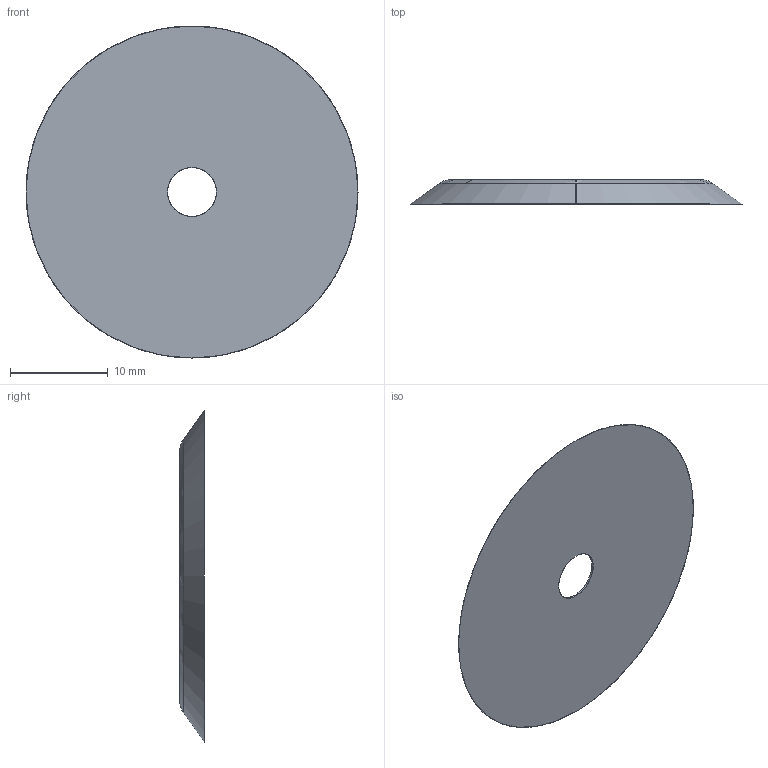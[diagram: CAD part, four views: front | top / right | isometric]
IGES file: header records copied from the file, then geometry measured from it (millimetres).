
Start section: SolidWorks IGES FILE using analytic representation for surfaces
Global section: file name: \\Ls-wvld1d\share\シブタニ\3D設計\ゴム\K-34\K-34.IGS; native system: SolidWorks 2003 by SolidWorks Corporation; preprocessor: Version 5.3; author: user; date: 130715.155107; units: millimetre
Bounding box: 34 x 2.5 x 34 mm (x, y, z)
Surface area: 1975.7 mm2 (no closed solid volume)
Topology: 0 solids, 0 shells, 11 faces, 256 edges, 256 vertices
Faces by surface type: revolution 6, bspline 5
